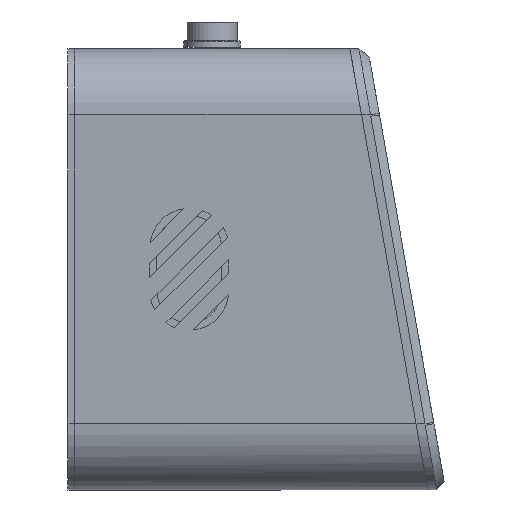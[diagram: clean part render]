
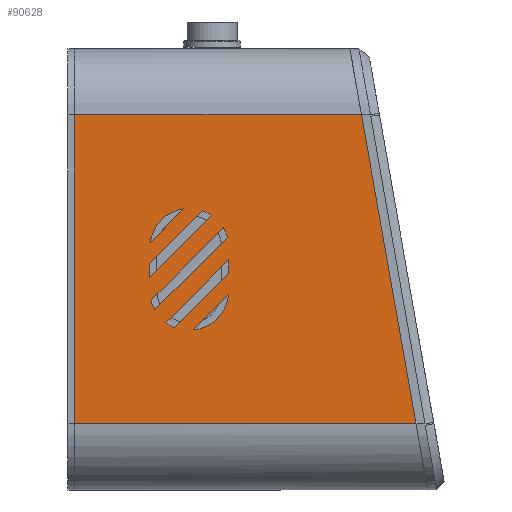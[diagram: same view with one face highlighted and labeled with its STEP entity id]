
A CAD part, left-side view. The second image highlights one B-rep face of the part: STEP entity #90628.
In plain terms, the highlighted planar face has unit normal (-1, 0, 0).
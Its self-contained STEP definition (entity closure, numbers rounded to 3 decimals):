
#4078=FACE_BOUND('',#17208,.T.);
#4079=FACE_BOUND('',#17209,.T.);
#4080=FACE_BOUND('',#17210,.T.);
#4081=FACE_BOUND('',#17211,.T.);
#4082=FACE_BOUND('',#17212,.T.);
#7282=PLANE('',#98188);
#11902=FACE_OUTER_BOUND('',#17207,.T.);
#17207=EDGE_LOOP('',(#83538,#83539,#83540,#83541));
#17208=EDGE_LOOP('',(#83542,#83543,#83544,#83545));
#17209=EDGE_LOOP('',(#83546,#83547,#83548,#83549));
#17210=EDGE_LOOP('',(#83550,#83551,#83552,#83553));
#17211=EDGE_LOOP('',(#83554,#83555));
#17212=EDGE_LOOP('',(#83556,#83557));
#26789=LINE('',#149349,#36623);
#26793=LINE('',#149358,#36627);
#26795=LINE('',#149365,#36629);
#26798=LINE('',#149370,#36632);
#26801=LINE('',#149377,#36635);
#26802=LINE('',#149381,#36636);
#26806=LINE('',#149390,#36640);
#26808=LINE('',#149393,#36642);
#26811=LINE('',#149401,#36645);
#26814=LINE('',#149409,#36648);
#26891=LINE('',#149657,#36725);
#26892=LINE('',#149661,#36726);
#26893=LINE('',#149663,#36727);
#26894=LINE('',#149664,#36728);
#36623=VECTOR('',#121209,10.);
#36627=VECTOR('',#121219,10.);
#36629=VECTOR('',#121227,10.);
#36632=VECTOR('',#121232,10.);
#36635=VECTOR('',#121241,10.);
#36636=VECTOR('',#121244,10.);
#36640=VECTOR('',#121254,10.);
#36642=VECTOR('',#121258,10.);
#36645=VECTOR('',#121267,10.);
#36648=VECTOR('',#121276,10.);
#36725=VECTOR('',#121551,10.);
#36726=VECTOR('',#121556,10.);
#36727=VECTOR('',#121557,10.);
#36728=VECTOR('',#121558,10.);
#39341=CIRCLE('',#98068,8.95);
#39342=CIRCLE('',#98071,8.95);
#39343=CIRCLE('',#98075,8.95);
#39344=CIRCLE('',#98079,8.95);
#39345=CIRCLE('',#98083,8.95);
#39346=CIRCLE('',#98086,8.95);
#47010=VERTEX_POINT('',#149347);
#47011=VERTEX_POINT('',#149348);
#47012=VERTEX_POINT('',#149353);
#47013=VERTEX_POINT('',#149357);
#47014=VERTEX_POINT('',#149363);
#47015=VERTEX_POINT('',#149364);
#47016=VERTEX_POINT('',#149369);
#47017=VERTEX_POINT('',#149373);
#47018=VERTEX_POINT('',#149379);
#47019=VERTEX_POINT('',#149380);
#47020=VERTEX_POINT('',#149385);
#47021=VERTEX_POINT('',#149389);
#47022=VERTEX_POINT('',#149395);
#47023=VERTEX_POINT('',#149396);
#47024=VERTEX_POINT('',#149403);
#47025=VERTEX_POINT('',#149404);
#47096=VERTEX_POINT('',#149654);
#47097=VERTEX_POINT('',#149656);
#47098=VERTEX_POINT('',#149660);
#47099=VERTEX_POINT('',#149662);
#59183=EDGE_CURVE('',#47010,#47011,#26789,.T.);
#59186=EDGE_CURVE('',#47011,#47012,#39341,.T.);
#59188=EDGE_CURVE('',#47012,#47013,#26793,.T.);
#59190=EDGE_CURVE('',#47013,#47010,#39342,.T.);
#59191=EDGE_CURVE('',#47014,#47015,#26795,.T.);
#59194=EDGE_CURVE('',#47015,#47016,#26798,.T.);
#59196=EDGE_CURVE('',#47016,#47017,#39343,.T.);
#59198=EDGE_CURVE('',#47017,#47014,#26801,.T.);
#59199=EDGE_CURVE('',#47018,#47019,#26802,.T.);
#59202=EDGE_CURVE('',#47019,#47020,#39344,.T.);
#59204=EDGE_CURVE('',#47020,#47021,#26806,.T.);
#59206=EDGE_CURVE('',#47021,#47018,#26808,.T.);
#59207=EDGE_CURVE('',#47022,#47023,#39345,.T.);
#59210=EDGE_CURVE('',#47023,#47022,#26811,.T.);
#59211=EDGE_CURVE('',#47024,#47025,#39346,.T.);
#59214=EDGE_CURVE('',#47025,#47024,#26814,.T.);
#59333=EDGE_CURVE('',#47096,#47097,#26891,.T.);
#59335=EDGE_CURVE('',#47096,#47098,#26892,.T.);
#59336=EDGE_CURVE('',#47099,#47098,#26893,.T.);
#59337=EDGE_CURVE('',#47099,#47097,#26894,.T.);
#83538=ORIENTED_EDGE('',*,*,#59333,.F.);
#83539=ORIENTED_EDGE('',*,*,#59335,.T.);
#83540=ORIENTED_EDGE('',*,*,#59336,.F.);
#83541=ORIENTED_EDGE('',*,*,#59337,.T.);
#83542=ORIENTED_EDGE('',*,*,#59188,.T.);
#83543=ORIENTED_EDGE('',*,*,#59190,.T.);
#83544=ORIENTED_EDGE('',*,*,#59183,.T.);
#83545=ORIENTED_EDGE('',*,*,#59186,.T.);
#83546=ORIENTED_EDGE('',*,*,#59196,.T.);
#83547=ORIENTED_EDGE('',*,*,#59198,.T.);
#83548=ORIENTED_EDGE('',*,*,#59191,.T.);
#83549=ORIENTED_EDGE('',*,*,#59194,.T.);
#83550=ORIENTED_EDGE('',*,*,#59204,.T.);
#83551=ORIENTED_EDGE('',*,*,#59206,.T.);
#83552=ORIENTED_EDGE('',*,*,#59199,.T.);
#83553=ORIENTED_EDGE('',*,*,#59202,.T.);
#83554=ORIENTED_EDGE('',*,*,#59210,.T.);
#83555=ORIENTED_EDGE('',*,*,#59207,.T.);
#83556=ORIENTED_EDGE('',*,*,#59214,.T.);
#83557=ORIENTED_EDGE('',*,*,#59211,.T.);
#90628=ADVANCED_FACE('',(#11902,#4078,#4079,#4080,#4081,#4082),#7282,.T.);
#98068=AXIS2_PLACEMENT_3D('',#149354,#121214,#121215);
#98071=AXIS2_PLACEMENT_3D('',#149361,#121223,#121224);
#98075=AXIS2_PLACEMENT_3D('',#149374,#121236,#121237);
#98079=AXIS2_PLACEMENT_3D('',#149386,#121249,#121250);
#98083=AXIS2_PLACEMENT_3D('',#149397,#121261,#121262);
#98086=AXIS2_PLACEMENT_3D('',#149405,#121270,#121271);
#98188=AXIS2_PLACEMENT_3D('',#149659,#121554,#121555);
#121209=DIRECTION('',(0.,-0.707,0.707));
#121214=DIRECTION('center_axis',(1.,0.,0.));
#121215=DIRECTION('ref_axis',(0.,1.,0.));
#121219=DIRECTION('',(0.,0.707,-0.707));
#121223=DIRECTION('center_axis',(1.,0.,0.));
#121224=DIRECTION('ref_axis',(0.,-1.,0.));
#121227=DIRECTION('',(0.,0.,1.));
#121232=DIRECTION('',(0.,-0.707,0.707));
#121236=DIRECTION('center_axis',(1.,0.,0.));
#121237=DIRECTION('ref_axis',(0.,1.,0.));
#121241=DIRECTION('',(0.,0.707,-0.707));
#121244=DIRECTION('',(0.,0.707,-0.707));
#121249=DIRECTION('center_axis',(1.,0.,0.));
#121250=DIRECTION('ref_axis',(0.,-1.,0.));
#121254=DIRECTION('',(0.,-0.707,0.707));
#121258=DIRECTION('',(0.,0.,-1.));
#121261=DIRECTION('center_axis',(1.,0.,0.));
#121262=DIRECTION('ref_axis',(0.,1.,0.));
#121267=DIRECTION('',(0.,0.707,-0.707));
#121270=DIRECTION('center_axis',(1.,0.,0.));
#121271=DIRECTION('ref_axis',(0.,-1.,0.));
#121276=DIRECTION('',(0.,-0.707,0.707));
#121551=DIRECTION('',(0.,1.,0.));
#121554=DIRECTION('center_axis',(-1.,0.,0.));
#121555=DIRECTION('ref_axis',(0.,0.,1.));
#121556=DIRECTION('',(0.,0.174,0.985));
#121557=DIRECTION('',(0.,-1.,0.));
#121558=DIRECTION('',(0.,0.,-1.));
#149347=CARTESIAN_POINT('',(-55.,62.692,43.015));
#149348=CARTESIAN_POINT('',(-55.,46.298,59.409));
#149349=CARTESIAN_POINT('',(-55.,47.043,58.664));
#149353=CARTESIAN_POINT('',(-55.,45.371,57.224));
#149354=CARTESIAN_POINT('Origin',(-55.,54.,54.85));
#149357=CARTESIAN_POINT('',(-55.,61.812,40.783));
#149358=CARTESIAN_POINT('',(-55.,54.091,48.504));
#149361=CARTESIAN_POINT('Origin',(-55.,54.,45.15));
#149363=CARTESIAN_POINT('',(-55.,62.95,48.13));
#149364=CARTESIAN_POINT('',(-55.,62.95,51.242));
#149365=CARTESIAN_POINT('',(-55.,62.95,50.904));
#149369=CARTESIAN_POINT('',(-55.,50.933,63.258));
#149370=CARTESIAN_POINT('',(-55.,51.585,62.607));
#149373=CARTESIAN_POINT('',(-55.,48.886,62.195));
#149374=CARTESIAN_POINT('Origin',(-55.,54.,54.85));
#149377=CARTESIAN_POINT('',(-55.,56.887,54.194));
#149379=CARTESIAN_POINT('',(-55.,45.05,49.06));
#149380=CARTESIAN_POINT('',(-55.,57.285,36.825));
#149381=CARTESIAN_POINT('',(-55.,49.604,44.505));
#149385=CARTESIAN_POINT('',(-55.,59.29,37.931));
#149386=CARTESIAN_POINT('Origin',(-55.,54.,45.15));
#149389=CARTESIAN_POINT('',(-55.,45.05,52.171));
#149390=CARTESIAN_POINT('',(-55.,44.189,53.032));
#149393=CARTESIAN_POINT('',(-55.,45.05,49.247));
#149395=CARTESIAN_POINT('',(-55.,62.856,56.144));
#149396=CARTESIAN_POINT('',(-55.,55.294,63.706));
#149397=CARTESIAN_POINT('Origin',(-55.,54.,54.85));
#149401=CARTESIAN_POINT('',(-55.,58.678,60.322));
#149403=CARTESIAN_POINT('',(-55.,45.1,44.201));
#149404=CARTESIAN_POINT('',(-55.,53.051,36.25));
#149405=CARTESIAN_POINT('Origin',(-55.,54.,45.15));
#149409=CARTESIAN_POINT('',(-55.,42.376,46.926));
#149654=CARTESIAN_POINT('',(-55.,2.645,15.));
#149656=CARTESIAN_POINT('',(-55.,80.,15.));
#149657=CARTESIAN_POINT('',(-55.,20.,15.));
#149659=CARTESIAN_POINT('Origin',(-55.,40.,50.));
#149660=CARTESIAN_POINT('',(-55.,14.988,85.));
#149661=CARTESIAN_POINT('',(-55.,0.,0.));
#149662=CARTESIAN_POINT('',(-55.,80.,85.));
#149663=CARTESIAN_POINT('',(-55.,60.,85.));
#149664=CARTESIAN_POINT('',(-55.,80.,100.));
